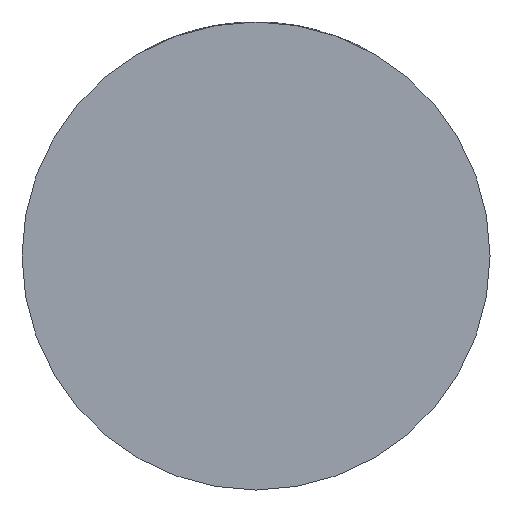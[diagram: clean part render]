
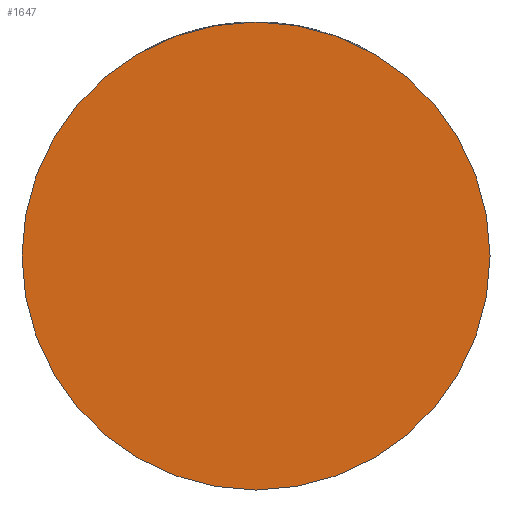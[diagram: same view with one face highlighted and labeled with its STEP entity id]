
A CAD part, front view. The second image highlights one B-rep face of the part: STEP entity #1647.
In plain terms, the highlighted planar face has unit normal (0, -1, 0).
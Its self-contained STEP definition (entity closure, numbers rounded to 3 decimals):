
#399 = DIRECTION ( 'NONE',  ( 0., -1., 0. ) ) ;
#725 = DIRECTION ( 'NONE',  ( 0., -1., 0. ) ) ;
#970 = DIRECTION ( 'NONE',  ( 1., 0., 0. ) ) ;
#1647 = ADVANCED_FACE ( 'NONE', ( #2468 ), #3860, .T. ) ;
#1807 = CARTESIAN_POINT ( 'NONE',  ( -39., -39., 0. ) ) ;
#1965 = CIRCLE ( 'NONE', #2914, 39. ) ;
#2377 = CARTESIAN_POINT ( 'NONE',  ( 0., -39., 0. ) ) ;
#2468 = FACE_OUTER_BOUND ( 'NONE', #2548, .T. ) ;
#2546 = EDGE_CURVE ( 'NONE', #4306, #4204, #4321, .T. ) ;
#2548 = EDGE_LOOP ( 'NONE', ( #3325, #2580 ) ) ;
#2580 = ORIENTED_EDGE ( 'NONE', *, *, #2546, .T. ) ;
#2769 = AXIS2_PLACEMENT_3D ( 'NONE', #3175, #725, #3540 ) ;
#2914 = AXIS2_PLACEMENT_3D ( 'NONE', #3879, #399, #970 ) ;
#3074 = AXIS2_PLACEMENT_3D ( 'NONE', #2377, #3787, #4460 ) ;
#3175 = CARTESIAN_POINT ( 'NONE',  ( 0., -39., 0. ) ) ;
#3325 = ORIENTED_EDGE ( 'NONE', *, *, #3437, .T. ) ;
#3437 = EDGE_CURVE ( 'NONE', #4204, #4306, #1965, .T. ) ;
#3540 = DIRECTION ( 'NONE',  ( 1., 0., 0. ) ) ;
#3787 = DIRECTION ( 'NONE',  ( 0., -1., 0. ) ) ;
#3860 = PLANE ( 'NONE',  #2769 ) ;
#3879 = CARTESIAN_POINT ( 'NONE',  ( 0., -39., 0. ) ) ;
#4112 = CARTESIAN_POINT ( 'NONE',  ( 39., -39., 0. ) ) ;
#4204 = VERTEX_POINT ( 'NONE', #1807 ) ;
#4306 = VERTEX_POINT ( 'NONE', #4112 ) ;
#4321 = CIRCLE ( 'NONE', #3074, 39. ) ;
#4460 = DIRECTION ( 'NONE',  ( 1., 0., 0. ) ) ;
